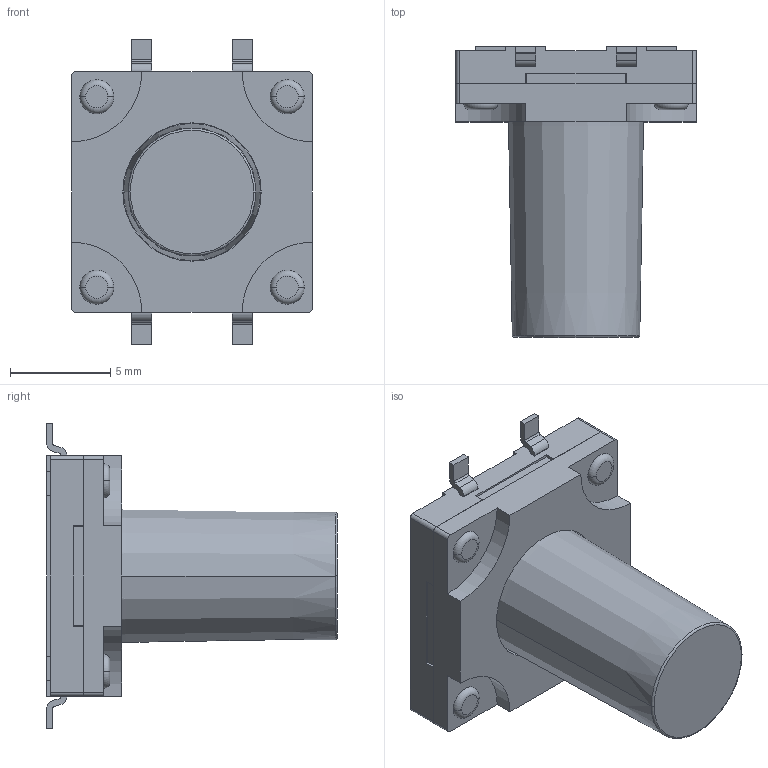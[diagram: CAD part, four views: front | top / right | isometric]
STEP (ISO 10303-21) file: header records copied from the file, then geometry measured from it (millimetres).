
FILE_DESCRIPTION((''),'2;1');
FILE_NAME('JQA1212BF-C0801-G-1-109_ASM','2026-05-13T16:37:08',('Admin'),(''),'CREO PARAMETRIC BY PTC INC, 2019224','CREO PARAMETRIC BY PTC INC, 2019224','');
FILE_SCHEMA(('AUTOMOTIVE_DESIGN { 1 0 10303 214 1 1 1 1 }'));
Length unit declared in the file: millimetre
Products named in the file (3): JQA1212BF-C0801-G-1-109_04; JQA1212BF-C0801-G-1-109_05; JQA1212BF-C0801-G-1-109_ASM
Assembly tree (2 placements, depth 2):
  JQA1212BF-C0801-G-1-109_ASM
    JQA1212BF-C0801-G-1-109_04
    JQA1212BF-C0801-G-1-109_05
Bounding box: 12 x 14.5 x 15.2 mm (x, y, z)
Volume: 851.3 mm3; surface area: 1051.7 mm2
Topology: 2 solids, 2 shells, 179 faces, 482 edges, 334 vertices
Faces by surface type: plane 121, cylinder 46, torus 10, cone 2
Entity records: 7808 total; most frequent: CARTESIAN_POINT 993, DIRECTION 986, ORIENTED_EDGE 944, PRESENTATION_STYLE_ASSIGNMENT 531, STYLED_ITEM 487, CURVE_STYLE 485, EDGE_CURVE 472, VECTOR 358
